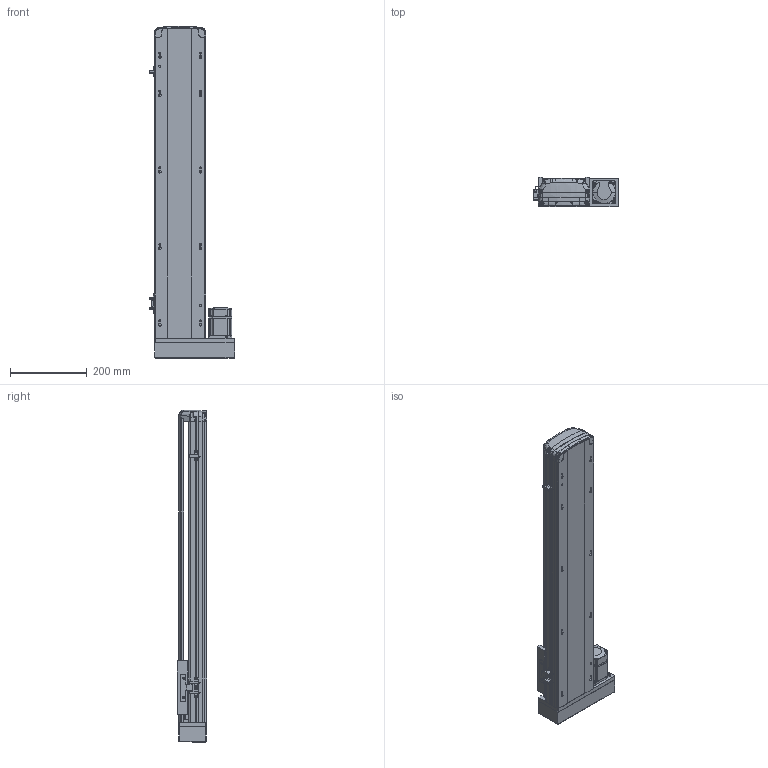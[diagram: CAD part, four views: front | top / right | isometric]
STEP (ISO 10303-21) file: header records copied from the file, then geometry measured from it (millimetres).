
FILE_DESCRIPTION (( 'STEP AP214' ), '1' );
FILE_NAME ('RTH14-XX-600-R-M20-C4.STEP', '2025-10-24T09:54:52', ( 'Microsoft' ), ( 'Microsoft' ), 'SwSTEP 2.0', 'SolidWorks 2018', '' );
FILE_SCHEMA (( 'AUTOMOTIVE_DESIGN' ));
Length unit declared in the file: millimetre
Products named in the file (10): N_RTH14-GY-001P^RTH14-XX-XX-R-M20-C4; N_RTH13-L-018 裔赽^RTH14-XX-XX-R-M20-C4; RTH14-XX-600-R-M20-C4; N_RTH14-R-004-SFSR16賑釱^RTH14-XX-XX-R-M20-C4; N_MSMD022P1AA_200W^RTH14-XX-XX-R-M20-C4; N_RTH14-M-007P奻裔^RTH14-XX-XX-R-M20-C4; N_RTH13-L-008-P20 萇儂啣酘蛌殏^RTH14-XX-XX-R-M20-C4; N_RTH14-M-011P菁釱^RTH14-XX-XX-R-M20-C4; N_RTH13-L-012感应片（外置）^RTH14-XX-XX-R-M20-C4; N_OMRON EE-SX672 传感器^RTH14-XX-XX-R-M20-C4
Assembly tree (11 placements, depth 2):
  RTH14-XX-600-R-M20-C4
    N_RTH14-M-011P菁釱^RTH14-XX-XX-R-M20-C4
    N_RTH14-M-007P奻裔^RTH14-XX-XX-R-M20-C4
    N_MSMD022P1AA_200W^RTH14-XX-XX-R-M20-C4
    N_RTH13-L-008-P20 萇儂啣酘蛌殏^RTH14-XX-XX-R-M20-C4
    N_RTH13-L-018 裔赽^RTH14-XX-XX-R-M20-C4
    N_RTH13-L-012感应片（外置）^RTH14-XX-XX-R-M20-C4
    N_OMRON EE-SX672 传感器^RTH14-XX-XX-R-M20-C4  x3
    N_RTH14-R-004-SFSR16賑釱^RTH14-XX-XX-R-M20-C4
    N_RTH14-GY-001P^RTH14-XX-XX-R-M20-C4
Bounding box: 224 x 78.03 x 867.73 mm (x, y, z)
Volume: 3926123.1 mm3; surface area: 929475.8 mm2
Topology: 10 solids, 12 shells, 1869 faces, 5230 edges, 3429 vertices
Faces by surface type: plane 989, cylinder 485, bspline 346, cone 45, torus 4
Entity records: 57129 total; most frequent: CARTESIAN_POINT 23093, ORIENTED_EDGE 7517, DIRECTION 6020, EDGE_CURVE 3764, VERTEX_POINT 2465, LINE 2154, VECTOR 2154, AXIS2_PLACEMENT_3D 1933
